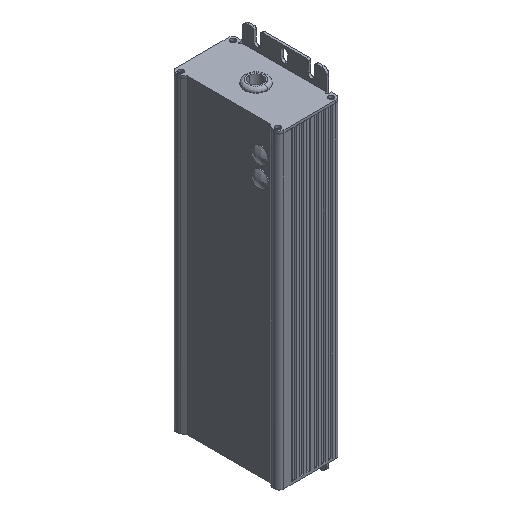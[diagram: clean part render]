
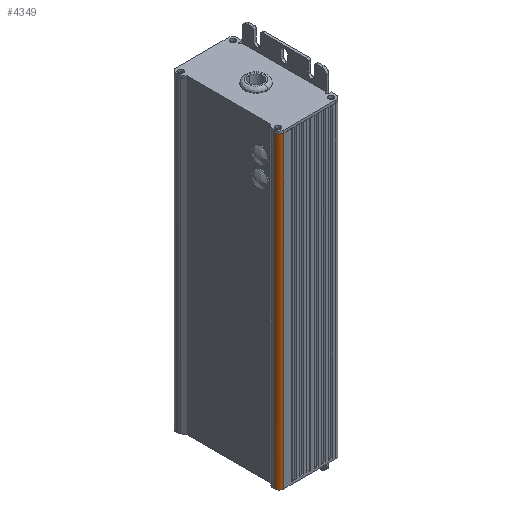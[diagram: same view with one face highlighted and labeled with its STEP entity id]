
A CAD part, isometric view. The second image highlights one B-rep face of the part: STEP entity #4349.
In plain terms, the highlighted cylindrical face has radius 3 mm (diameter 6 mm), a partial arc.
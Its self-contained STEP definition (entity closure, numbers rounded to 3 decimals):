
#123 = CARTESIAN_POINT ( 'NONE',  ( 1943.285, -2416.053, 217. ) ) ;
#365 = ORIENTED_EDGE ( 'NONE', *, *, #3083, .T. ) ;
#623 = ORIENTED_EDGE ( 'NONE', *, *, #12939, .T. ) ;
#639 = CARTESIAN_POINT ( 'NONE',  ( 1946.268, -2413.053, 217. ) ) ;
#942 = CARTESIAN_POINT ( 'NONE',  ( 1943.361, -2415.276, 217. ) ) ;
#1113 = EDGE_CURVE ( 'NONE', #12479, #7026, #10428, .T. ) ;
#1180 = DIRECTION ( 'NONE',  ( 0., -1., 0. ) ) ;
#1234 = FACE_OUTER_BOUND ( 'NONE', #2183, .T. ) ;
#1275 = DIRECTION ( 'NONE',  ( 0., 0., 1. ) ) ;
#1300 = CARTESIAN_POINT ( 'NONE',  ( 1946.285, -2413.053, 15. ) ) ;
#1692 = B_SPLINE_CURVE_WITH_KNOTS ( 'NONE', 3,
 ( #12221, #12312, #639, #2621 ),
 .UNSPECIFIED., .F., .F.,
 ( 4, 4 ),
 ( 0., 1. ),
 .UNSPECIFIED. ) ;
#2086 = CARTESIAN_POINT ( 'NONE',  ( 1946.235, -2413.054, 217. ) ) ;
#2183 = EDGE_LOOP ( 'NONE', ( #11632, #365, #9772, #623, #9476 ) ) ;
#2275 = AXIS2_PLACEMENT_3D ( 'NONE', #7558, #1275, #1180 ) ;
#2422 = DIRECTION ( 'NONE',  ( 0., 0., -1. ) ) ;
#2621 = CARTESIAN_POINT ( 'NONE',  ( 1946.285, -2413.053, 217. ) ) ;
#2887 = LINE ( 'NONE', #1300, #5887 ) ;
#2939 = B_SPLINE_CURVE_WITH_KNOTS ( 'NONE', 3,
 ( #4128, #7317, #942, #13710, #3100, #8380, #10499, #4172, #11571, #7364 ),
 .UNSPECIFIED., .F., .F.,
 ( 4, 2, 2, 2, 4 ),
 ( 0., 0.25, 0.5, 0.75, 1. ),
 .UNSPECIFIED. ) ;
#3083 = EDGE_CURVE ( 'NONE', #11642, #7026, #8408, .T. ) ;
#3100 = CARTESIAN_POINT ( 'NONE',  ( 1943.873, -2414.227, 217. ) ) ;
#3828 = CARTESIAN_POINT ( 'NONE',  ( 1946.285, -2416.053, 15. ) ) ;
#4017 = DIRECTION ( 'NONE',  ( 0., 0., 1. ) ) ;
#4128 = CARTESIAN_POINT ( 'NONE',  ( 1943.285, -2416.053, 217. ) ) ;
#4172 = CARTESIAN_POINT ( 'NONE',  ( 1945.459, -2413.143, 217. ) ) ;
#4349 = ADVANCED_FACE ( 'NONE', ( #1234 ), #12206, .T. ) ;
#4704 = CARTESIAN_POINT ( 'NONE',  ( 1946.285, -2413.053, 217. ) ) ;
#5108 = EDGE_CURVE ( 'NONE', #5346, #11642, #2887, .T. ) ;
#5346 = VERTEX_POINT ( 'NONE', #4704 ) ;
#5449 = DIRECTION ( 'NONE',  ( 0., 0., -1. ) ) ;
#5887 = VECTOR ( 'NONE', #5449, 1000. ) ;
#6059 = DIRECTION ( 'NONE',  ( 0., -1., 0. ) ) ;
#6507 = EDGE_CURVE ( 'NONE', #9930, #5346, #1692, .T. ) ;
#6515 = CARTESIAN_POINT ( 'NONE',  ( 1943.285, -2416.053, 22.6 ) ) ;
#7026 = VERTEX_POINT ( 'NONE', #6515 ) ;
#7317 = CARTESIAN_POINT ( 'NONE',  ( 1943.285, -2415.665, 217. ) ) ;
#7364 = CARTESIAN_POINT ( 'NONE',  ( 1946.235, -2413.054, 217. ) ) ;
#7558 = CARTESIAN_POINT ( 'NONE',  ( 1946.285, -2416.053, 22.6 ) ) ;
#7814 = CARTESIAN_POINT ( 'NONE',  ( 1943.285, -2416.053, 15. ) ) ;
#8380 = CARTESIAN_POINT ( 'NONE',  ( 1944.418, -2413.673, 217. ) ) ;
#8408 = CIRCLE ( 'NONE', #2275, 3. ) ;
#9295 = AXIS2_PLACEMENT_3D ( 'NONE', #3828, #4017, #6059 ) ;
#9476 = ORIENTED_EDGE ( 'NONE', *, *, #6507, .T. ) ;
#9772 = ORIENTED_EDGE ( 'NONE', *, *, #1113, .F. ) ;
#9930 = VERTEX_POINT ( 'NONE', #2086 ) ;
#10428 = LINE ( 'NONE', #7814, #10925 ) ;
#10499 = CARTESIAN_POINT ( 'NONE',  ( 1944.745, -2413.449, 217. ) ) ;
#10925 = VECTOR ( 'NONE', #2422, 1000. ) ;
#11571 = CARTESIAN_POINT ( 'NONE',  ( 1945.846, -2413.06, 217. ) ) ;
#11632 = ORIENTED_EDGE ( 'NONE', *, *, #5108, .T. ) ;
#11642 = VERTEX_POINT ( 'NONE', #12127 ) ;
#12127 = CARTESIAN_POINT ( 'NONE',  ( 1946.285, -2413.053, 22.6 ) ) ;
#12206 = CYLINDRICAL_SURFACE ( 'NONE', #9295, 3. ) ;
#12221 = CARTESIAN_POINT ( 'NONE',  ( 1946.235, -2413.054, 217. ) ) ;
#12312 = CARTESIAN_POINT ( 'NONE',  ( 1946.251, -2413.053, 217. ) ) ;
#12479 = VERTEX_POINT ( 'NONE', #123 ) ;
#12939 = EDGE_CURVE ( 'NONE', #12479, #9930, #2939, .T. ) ;
#13710 = CARTESIAN_POINT ( 'NONE',  ( 1943.655, -2414.557, 217. ) ) ;
